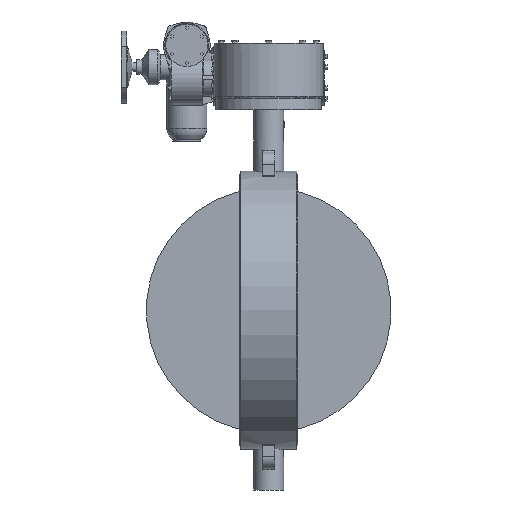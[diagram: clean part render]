
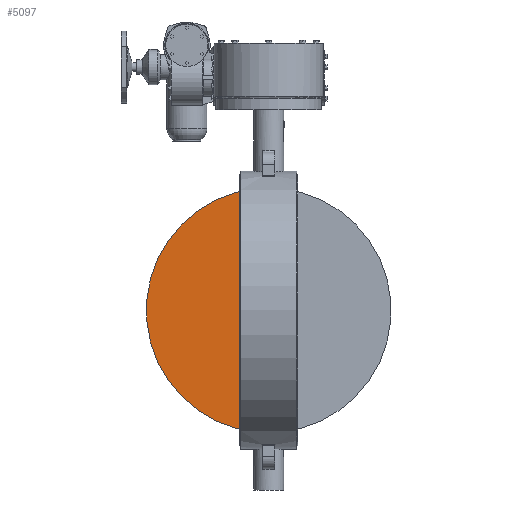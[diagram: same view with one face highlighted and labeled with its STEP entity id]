
A CAD part, front view. The second image highlights one B-rep face of the part: STEP entity #5097.
In plain terms, the highlighted planar face has unit normal (0, -1, 0).
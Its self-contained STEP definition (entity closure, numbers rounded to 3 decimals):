
#5097=ADVANCED_FACE('',(#9382),#9384,.T.);
#9382=FACE_BOUND('',#9383,.T.);
#9383=EDGE_LOOP('',(#12094,#12095));
#9384=PLANE('',#9385);
#9385=AXIS2_PLACEMENT_3D('',#9386,#9387,#9388);
#9386=CARTESIAN_POINT('',(0.,-10.,0.));
#9387=DIRECTION('',(0.,-1.,0.));
#9388=DIRECTION('',(0.,0.,1.));
#12094=ORIENTED_EDGE('',*,*,#13442,.T.);
#12095=ORIENTED_EDGE('',*,*,#13448,.T.);
#13442=EDGE_CURVE('',#15731,#15728,#15732,.F.);
#13448=EDGE_CURVE('',#15728,#15731,#15739,.T.);
#15728=VERTEX_POINT('',#24298);
#15731=VERTEX_POINT('',#24343);
#15732=LINE('',#24344,#24345);
#15739=CIRCLE('',#24406,347.5);
#24298=CARTESIAN_POINT('',(-30.923,-10.,346.121));
#24343=CARTESIAN_POINT('',(-30.923,-10.,-346.121));
#24344=CARTESIAN_POINT('',(-30.923,-10.,346.121));
#24345=VECTOR('',#24346,1.);
#24346=DIRECTION('',(0.,0.,-1.));
#24406=AXIS2_PLACEMENT_3D('',#24407,#24408,#24409);
#24407=CARTESIAN_POINT('',(0.,-10.,0.));
#24408=DIRECTION('',(0.,-1.,0.));
#24409=DIRECTION('',(-0.089,0.,0.996));
